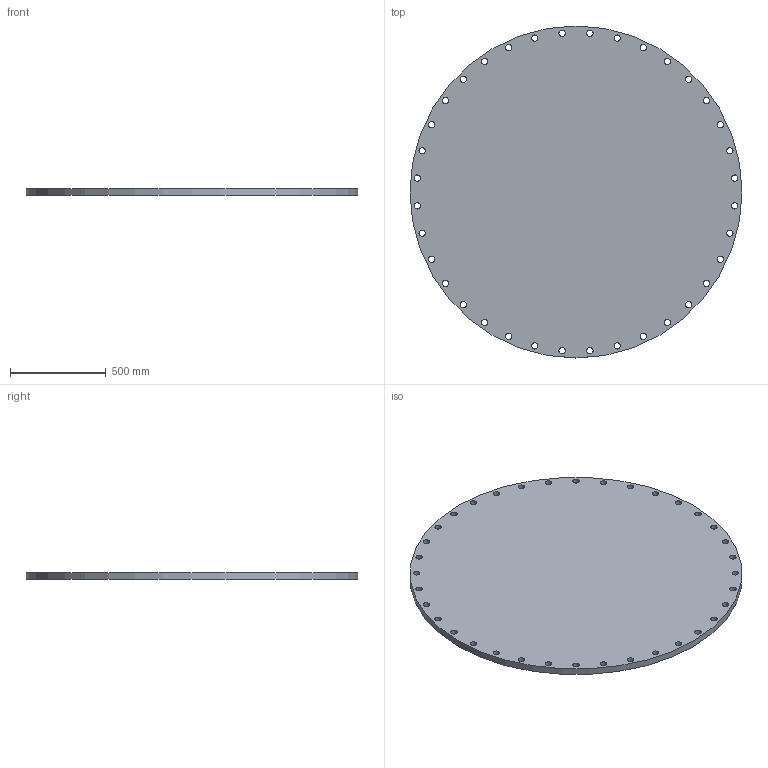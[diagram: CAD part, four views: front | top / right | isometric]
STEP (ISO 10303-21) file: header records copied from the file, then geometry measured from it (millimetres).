
FILE_DESCRIPTION(/* description */ (''),/* implementation_level */ '2;1');
FILE_NAME(/* name */ 'C:\Users\D\Documents\Inventor\HP\JIS\フランジ\JIS 5k bl ff\jis5k-bl-ff-1500.stp',/* time_stamp */ '2024-09-12T16:48:45+09:00',/* author */ ('D'),/* organization */ (''),/* preprocessor_version */ 'ST-DEVELOPER v18',/* originating_system */ 'Autodesk Inventor 2020',/* authorisation */ '');
FILE_SCHEMA (('AUTOMOTIVE_DESIGN { 1 0 10303 214 3 1 1 }'));
Length unit declared in the file: millimetre
Products named in the file (1): jis5k-sop-rf-10
Bounding box: 1730 x 1730 x 36 mm (x, y, z)
Volume: 83513786.9 mm3; surface area: 4969672.9 mm2
Topology: 1 solids, 1 shells, 39 faces, 149 edges, 112 vertices
Faces by surface type: cylinder 37, plane 2
Full cylindrical faces by diameter (mm): 33 x36, 1730 x1
Entity records: 1884 total; most frequent: DIRECTION 341, CARTESIAN_POINT 301, ORIENTED_EDGE 298, AXIS2_PLACEMENT_3D 152, EDGE_CURVE 149, CIRCLE 112, VERTEX_POINT 112, EDGE_LOOP 111
